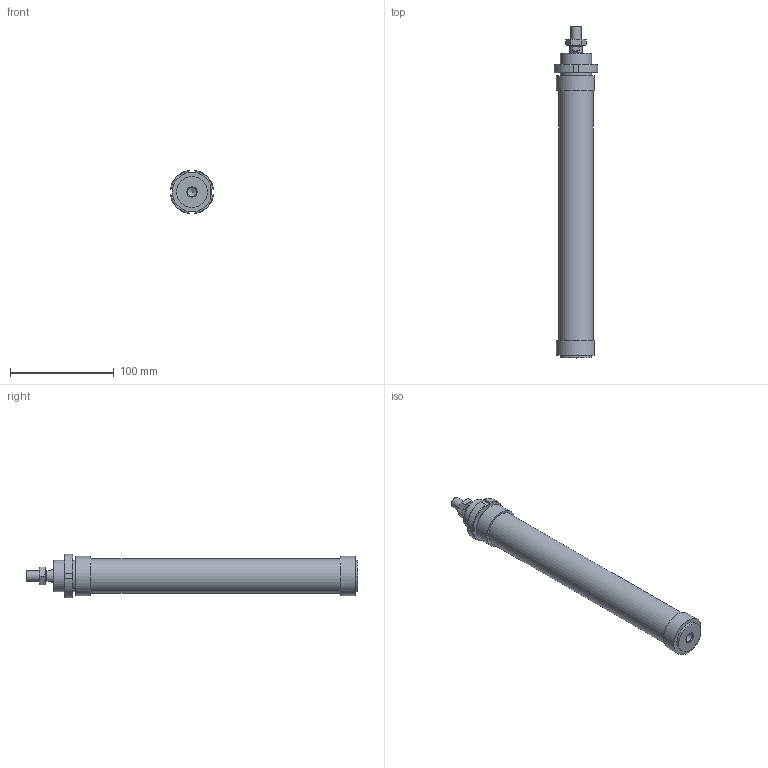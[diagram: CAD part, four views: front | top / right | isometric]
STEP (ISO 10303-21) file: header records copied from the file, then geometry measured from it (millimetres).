
FILE_DESCRIPTION((''),'2;1');
FILE_NAME('I:\Area Tecnica\Disegni\VARIE-3D\Componenti\1280\1281_##_####_#\1281_32_0200.iam.stp','2009-06-04T09:41:15',(''),(''),'Autodesk Inventor 2010','Autodesk Inventor 2010','');
FILE_SCHEMA(('AUTOMOTIVE_DESIGN { 1 0 10303 214 1 1 1 1 }'));
Length unit declared in the file: millimetre
Products named in the file (5): 1281_32_0200; C1281_32_200; S1280_32_200; 1200_32_05; 1200_32_06
Assembly tree (4 placements, depth 2):
  1281_32_0200
    C1281_32_200
    S1280_32_200
    1200_32_05
    1200_32_06
Bounding box: 41.7 x 319.5 x 41.7 mm (x, y, z)
Volume: 269617.9 mm3; surface area: 57459.7 mm2
Topology: 4 solids, 4 shells, 88 faces, 195 edges, 124 vertices
Faces by surface type: plane 39, cone 22, bspline 14, cylinder 13
Full cylindrical faces by diameter (mm): 8.8 x1, 10 x1, 12 x2, 30 x2, 33.6 x1
Entity records: 2663 total; most frequent: CARTESIAN_POINT 675, DIRECTION 362, ORIENTED_EDGE 338, EDGE_CURVE 169, AXIS2_PLACEMENT_3D 150, EDGE_LOOP 122, VERTEX_POINT 119, STYLED_ITEM 92
